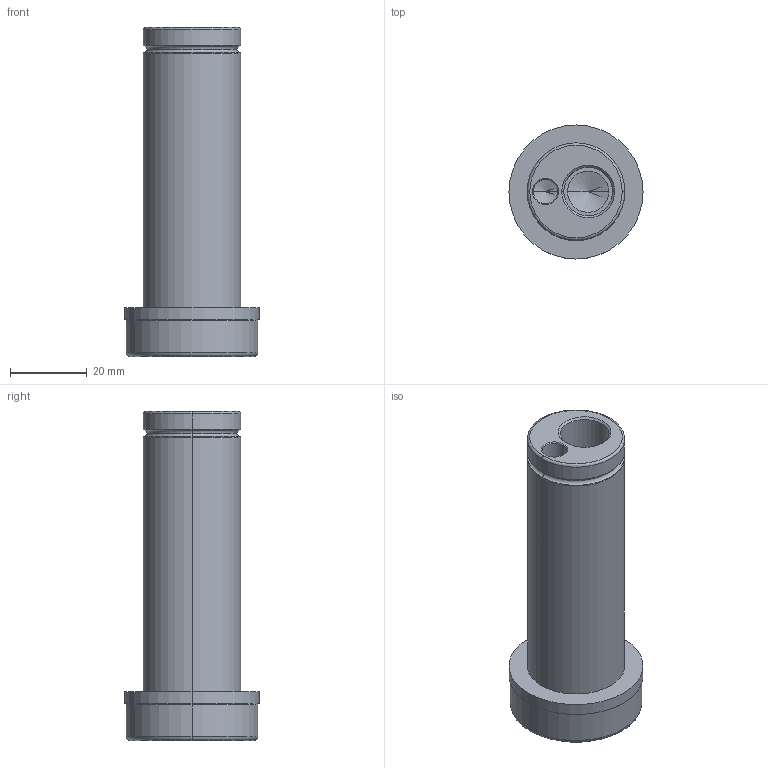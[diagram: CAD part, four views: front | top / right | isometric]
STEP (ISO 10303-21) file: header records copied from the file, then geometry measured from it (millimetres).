
FILE_DESCRIPTION (( 'STEP AP214' ), '1' );
FILE_NAME ('GK95-E-3-GuidePin.stp', '2010-10-18T15:04:14', ( ' ' ), ( '' ), 'SwSTEP 2.0', 'SolidWorks 2010', '' );
FILE_SCHEMA (( 'AUTOMOTIVE_DESIGN' ));
Length unit declared in the file: inch
Products named in the file (1): GK95-E-3-GuidePin
Bounding box: 34.92 x 34.92 x 85.72 mm (x, y, z)
Volume: 43888.2 mm3; surface area: 11999.6 mm2
Topology: 2 solids, 2 shells, 46 faces, 94 edges, 52 vertices
Faces by surface type: torus 16, cylinder 16, cone 8, plane 6
Entity records: 1295 total; most frequent: DIRECTION 250, CARTESIAN_POINT 189, ORIENTED_EDGE 180, AXIS2_PLACEMENT_3D 113, EDGE_CURVE 90, CIRCLE 66, EDGE_LOOP 52, VERTEX_POINT 52
